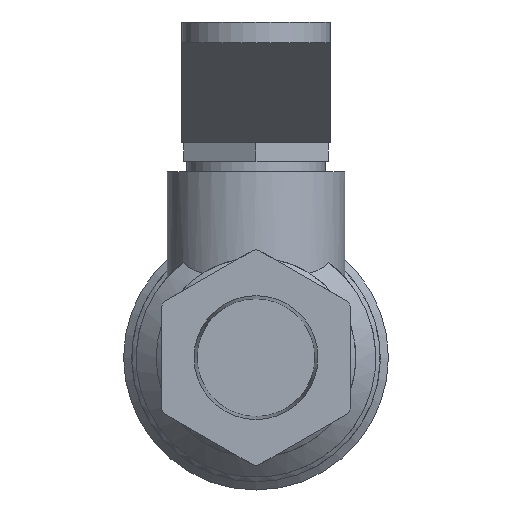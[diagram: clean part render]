
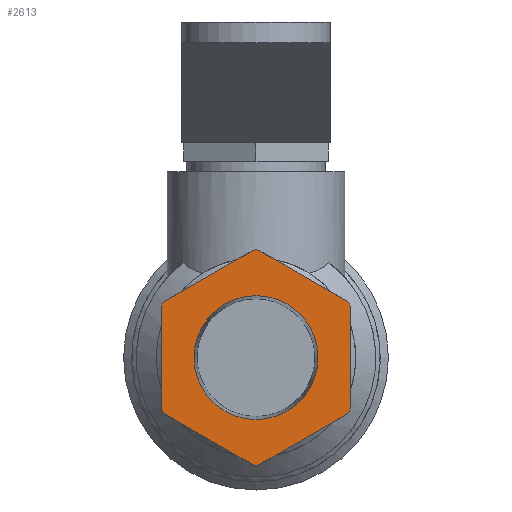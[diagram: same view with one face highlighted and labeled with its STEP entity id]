
A CAD part, left-side view. The second image highlights one B-rep face of the part: STEP entity #2613.
In plain terms, the highlighted planar face has unit normal (-1, 0, 0).
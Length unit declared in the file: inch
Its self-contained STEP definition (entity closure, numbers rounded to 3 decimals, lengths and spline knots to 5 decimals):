
#1100=CARTESIAN_POINT('',(0.0,0.24581,0.0));
#1101=VERTEX_POINT('',#1100);
#1102=CARTESIAN_POINT('',(0.0,0.0,0.0));
#1103=DIRECTION('',(1.0,0.0,0.0));
#1104=DIRECTION('',(0.0,1.0,0.0));
#1105=AXIS2_PLACEMENT_3D('',#1102,#1103,#1104);
#1106=CIRCLE('',#1105,0.24581);
#1107=EDGE_CURVE('',#1101,#1101,#1106,.T.);
#2272=CARTESIAN_POINT('',(0.0,0.35838,-0.22495));
#2273=VERTEX_POINT('',#2272);
#2280=CARTESIAN_POINT('',(0.0,0.374,-0.19789));
#2281=VERTEX_POINT('',#2280);
#2282=CARTESIAN_POINT('',(0.0,0.34275,-0.19789));
#2283=DIRECTION('',(1.0,0.0,0.0));
#2284=DIRECTION('',(0.0,0.866,-0.5));
#2285=AXIS2_PLACEMENT_3D('',#2282,#2283,#2284);
#2286=CIRCLE('',#2285,0.03125);
#2287=EDGE_CURVE('',#2273,#2281,#2286,.T.);
#2305=CARTESIAN_POINT('',(0.0,0.374,0.19789));
#2306=VERTEX_POINT('',#2305);
#2307=CARTESIAN_POINT('',(0.,0.374,-0.19789));
#2308=DIRECTION('',(0.0,0.0,1.0));
#2309=VECTOR('',#2308,0.39577);
#2310=LINE('',#2307,#2309);
#2311=EDGE_CURVE('',#2281,#2306,#2310,.T.);
#2334=CARTESIAN_POINT('',(0.0,0.35838,0.22495));
#2335=VERTEX_POINT('',#2334);
#2336=CARTESIAN_POINT('',(0.0,0.34275,0.19789));
#2337=DIRECTION('',(1.0,0.0,0.0));
#2338=DIRECTION('',(0.0,0.866,0.5));
#2339=AXIS2_PLACEMENT_3D('',#2336,#2337,#2338);
#2340=CIRCLE('',#2339,0.03125);
#2341=EDGE_CURVE('',#2306,#2335,#2340,.T.);
#2358=CARTESIAN_POINT('',(0.0,-0.01563,-0.42284));
#2359=VERTEX_POINT('',#2358);
#2366=CARTESIAN_POINT('',(0.0,0.01563,-0.42284));
#2367=VERTEX_POINT('',#2366);
#2368=CARTESIAN_POINT('',(0.0,0.0,-0.39577));
#2369=DIRECTION('',(1.0,0.0,0.0));
#2370=DIRECTION('',(0.0,0.0,-1.0));
#2371=AXIS2_PLACEMENT_3D('',#2368,#2369,#2370);
#2372=CIRCLE('',#2371,0.03125);
#2373=EDGE_CURVE('',#2359,#2367,#2372,.T.);
#2397=CARTESIAN_POINT('',(0.0,-0.35838,-0.22495));
#2398=VERTEX_POINT('',#2397);
#2405=CARTESIAN_POINT('',(0.,-0.35838,-0.22495));
#2406=DIRECTION('',(0.,0.866,-0.5));
#2407=VECTOR('',#2406,0.39577);
#2408=LINE('',#2405,#2407);
#2409=EDGE_CURVE('',#2398,#2359,#2408,.T.);
#2419=CARTESIAN_POINT('',(0.0,0.01563,0.42284));
#2420=VERTEX_POINT('',#2419);
#2427=CARTESIAN_POINT('',(0.0,-0.01563,0.42284));
#2428=VERTEX_POINT('',#2427);
#2429=CARTESIAN_POINT('',(0.0,0.0,0.39577));
#2430=DIRECTION('',(1.0,0.0,0.0));
#2431=DIRECTION('',(0.0,0.0,1.0));
#2432=AXIS2_PLACEMENT_3D('',#2429,#2430,#2431);
#2433=CIRCLE('',#2432,0.03125);
#2434=EDGE_CURVE('',#2420,#2428,#2433,.T.);
#2452=CARTESIAN_POINT('',(0.0,-0.35838,0.22495));
#2453=VERTEX_POINT('',#2452);
#2454=CARTESIAN_POINT('',(0.,-0.01563,0.42284));
#2455=DIRECTION('',(0.,-0.866,-0.5));
#2456=VECTOR('',#2455,0.39577);
#2457=LINE('',#2454,#2456);
#2458=EDGE_CURVE('',#2428,#2453,#2457,.T.);
#2481=CARTESIAN_POINT('',(0.0,-0.374,0.19789));
#2482=VERTEX_POINT('',#2481);
#2483=CARTESIAN_POINT('',(0.0,-0.34275,0.19789));
#2484=DIRECTION('',(1.0,0.0,0.0));
#2485=DIRECTION('',(0.0,-0.866,0.5));
#2486=AXIS2_PLACEMENT_3D('',#2483,#2484,#2485);
#2487=CIRCLE('',#2486,0.03125);
#2488=EDGE_CURVE('',#2453,#2482,#2487,.T.);
#2505=CARTESIAN_POINT('',(0.0,-0.374,-0.19789));
#2506=VERTEX_POINT('',#2505);
#2513=CARTESIAN_POINT('',(0.0,-0.34275,-0.19789));
#2514=DIRECTION('',(1.0,0.0,0.0));
#2515=DIRECTION('',(0.0,-0.866,-0.5));
#2516=AXIS2_PLACEMENT_3D('',#2513,#2514,#2515);
#2517=CIRCLE('',#2516,0.03125);
#2518=EDGE_CURVE('',#2506,#2398,#2517,.T.);
#2531=CARTESIAN_POINT('',(0.,-0.374,0.19789));
#2532=DIRECTION('',(0.0,0.0,-1.0));
#2533=VECTOR('',#2532,0.39577);
#2534=LINE('',#2531,#2533);
#2535=EDGE_CURVE('',#2482,#2506,#2534,.T.);
#2553=CARTESIAN_POINT('',(0.,0.35837,0.22495));
#2554=DIRECTION('',(0.,-0.866,0.5));
#2555=VECTOR('',#2554,0.39577);
#2556=LINE('',#2553,#2555);
#2557=EDGE_CURVE('',#2335,#2420,#2556,.T.);
#2582=CARTESIAN_POINT('',(0.,0.01563,-0.42284));
#2583=DIRECTION('',(0.,0.866,0.5));
#2584=VECTOR('',#2583,0.39577);
#2585=LINE('',#2582,#2584);
#2586=EDGE_CURVE('',#2367,#2273,#2585,.T.);
#2591=CARTESIAN_POINT('',(0.0,0.0,0.0));
#2592=DIRECTION('',(1.0,0.0,0.0));
#2593=DIRECTION('',(0.0,0.0,-1.0));
#2594=AXIS2_PLACEMENT_3D('',#2591,#2592,#2593);
#2595=PLANE('',#2594);
#2596=ORIENTED_EDGE('',*,*,#2287,.F.);
#2597=ORIENTED_EDGE('',*,*,#2586,.F.);
#2598=ORIENTED_EDGE('',*,*,#2373,.F.);
#2599=ORIENTED_EDGE('',*,*,#2409,.F.);
#2600=ORIENTED_EDGE('',*,*,#2518,.F.);
#2601=ORIENTED_EDGE('',*,*,#2535,.F.);
#2602=ORIENTED_EDGE('',*,*,#2488,.F.);
#2603=ORIENTED_EDGE('',*,*,#2458,.F.);
#2604=ORIENTED_EDGE('',*,*,#2434,.F.);
#2605=ORIENTED_EDGE('',*,*,#2557,.F.);
#2606=ORIENTED_EDGE('',*,*,#2341,.F.);
#2607=ORIENTED_EDGE('',*,*,#2311,.F.);
#2608=EDGE_LOOP('',(#2596,#2597,#2598,#2599,#2600,#2601,#2602,#2603,#2604,#2605,#2606,#2607));
#2609=FACE_OUTER_BOUND('',#2608,.T.);
#2610=ORIENTED_EDGE('',*,*,#1107,.T.);
#2611=EDGE_LOOP('',(#2610));
#2612=FACE_BOUND('',#2611,.T.);
#2613=ADVANCED_FACE('',(#2609,#2612),#2595,.F.);
